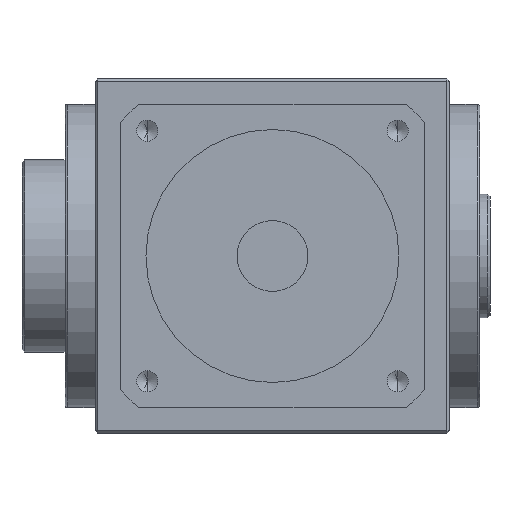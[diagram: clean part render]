
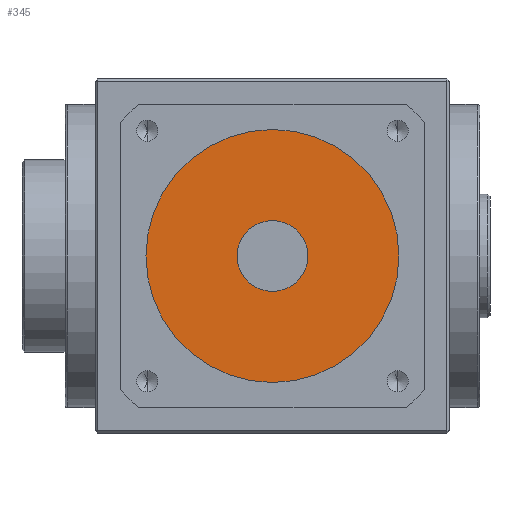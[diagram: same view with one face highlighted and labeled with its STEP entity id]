
A CAD part, front view. The second image highlights one B-rep face of the part: STEP entity #345.
In plain terms, the highlighted planar face has unit normal (0, -1, 0).
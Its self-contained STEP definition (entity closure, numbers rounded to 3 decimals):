
#14 = DIRECTION ( 'NONE',  ( 0., 1., 0. ) ) ;
#242 = AXIS2_PLACEMENT_3D ( 'NONE', #3068, #3519, #3555 ) ;
#345 = ADVANCED_FACE ( 'NONE', ( #5586, #6594 ), #2111, .T. ) ;
#510 = CARTESIAN_POINT ( 'NONE',  ( 0., -134., 25. ) ) ;
#600 = AXIS2_PLACEMENT_3D ( 'NONE', #3561, #14, #4526 ) ;
#777 = DIRECTION ( 'NONE',  ( 0., 0., -1. ) ) ;
#821 = EDGE_CURVE ( 'NONE', #934, #3249, #3001, .T. ) ;
#934 = VERTEX_POINT ( 'NONE', #5613 ) ;
#1051 = EDGE_LOOP ( 'NONE', ( #5813, #6498 ) ) ;
#1247 = AXIS2_PLACEMENT_3D ( 'NONE', #1346, #4387, #777 ) ;
#1260 = EDGE_CURVE ( 'NONE', #3249, #934, #3839, .T. ) ;
#1346 = CARTESIAN_POINT ( 'NONE',  ( 0., -134., 0. ) ) ;
#1426 = CIRCLE ( 'NONE', #1741, 25. ) ;
#1457 = AXIS2_PLACEMENT_3D ( 'NONE', #3181, #3715, #4741 ) ;
#1741 = AXIS2_PLACEMENT_3D ( 'NONE', #2483, #6059, #2417 ) ;
#2044 = EDGE_CURVE ( 'NONE', #5775, #3458, #4027, .T. ) ;
#2111 = PLANE ( 'NONE',  #1457 ) ;
#2417 = DIRECTION ( 'NONE',  ( 0., 0., -1. ) ) ;
#2483 = CARTESIAN_POINT ( 'NONE',  ( 0., -134., 0. ) ) ;
#2572 = CARTESIAN_POINT ( 'NONE',  ( 0., -134., -25. ) ) ;
#2909 = EDGE_CURVE ( 'NONE', #3458, #5775, #1426, .T. ) ;
#3001 = CIRCLE ( 'NONE', #600, 7. ) ;
#3068 = CARTESIAN_POINT ( 'NONE',  ( 0., -134., 0. ) ) ;
#3181 = CARTESIAN_POINT ( 'NONE',  ( 0., -134., 0. ) ) ;
#3249 = VERTEX_POINT ( 'NONE', #5574 ) ;
#3458 = VERTEX_POINT ( 'NONE', #510 ) ;
#3519 = DIRECTION ( 'NONE',  ( 0., 1., 0. ) ) ;
#3555 = DIRECTION ( 'NONE',  ( 0., 0., -1. ) ) ;
#3561 = CARTESIAN_POINT ( 'NONE',  ( 0., -134., 0. ) ) ;
#3564 = ORIENTED_EDGE ( 'NONE', *, *, #1260, .T. ) ;
#3715 = DIRECTION ( 'NONE',  ( 0., -1., 0. ) ) ;
#3839 = CIRCLE ( 'NONE', #242, 7. ) ;
#4027 = CIRCLE ( 'NONE', #1247, 25. ) ;
#4215 = EDGE_LOOP ( 'NONE', ( #6508, #3564 ) ) ;
#4387 = DIRECTION ( 'NONE',  ( 0., -1., 0. ) ) ;
#4526 = DIRECTION ( 'NONE',  ( 0., 0., -1. ) ) ;
#4741 = DIRECTION ( 'NONE',  ( 0., 0., -1. ) ) ;
#5574 = CARTESIAN_POINT ( 'NONE',  ( 0., -134., 7. ) ) ;
#5586 = FACE_OUTER_BOUND ( 'NONE', #1051, .T. ) ;
#5613 = CARTESIAN_POINT ( 'NONE',  ( 0., -134., -7. ) ) ;
#5775 = VERTEX_POINT ( 'NONE', #2572 ) ;
#5813 = ORIENTED_EDGE ( 'NONE', *, *, #2044, .T. ) ;
#6059 = DIRECTION ( 'NONE',  ( 0., -1., 0. ) ) ;
#6498 = ORIENTED_EDGE ( 'NONE', *, *, #2909, .T. ) ;
#6508 = ORIENTED_EDGE ( 'NONE', *, *, #821, .T. ) ;
#6594 = FACE_BOUND ( 'NONE', #4215, .T. ) ;
